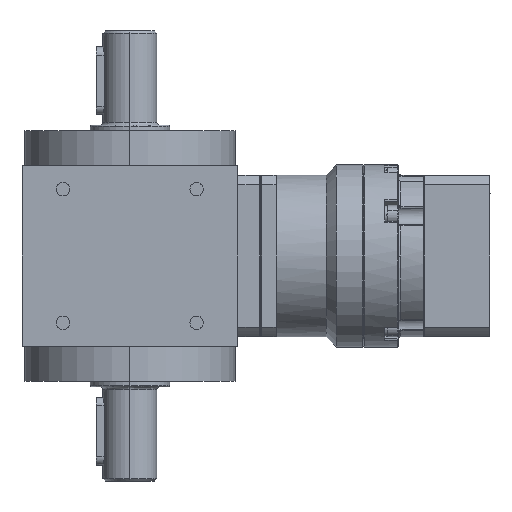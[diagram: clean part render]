
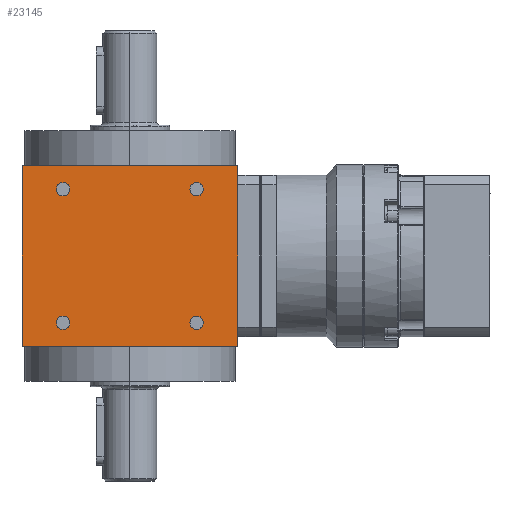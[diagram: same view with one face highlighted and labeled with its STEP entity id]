
A CAD part, left-side view. The second image highlights one B-rep face of the part: STEP entity #23145.
In plain terms, the highlighted planar face has unit normal (-1, 0, 0).
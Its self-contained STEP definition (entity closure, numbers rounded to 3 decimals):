
#205 = CARTESIAN_POINT ( 'NONE',  ( -40., 24.75, -24.75 ) ) ;
#367 = FACE_OUTER_BOUND ( 'NONE', #25468, .T. ) ;
#558 = EDGE_LOOP ( 'NONE', ( #16542, #19416 ) ) ;
#1187 = VERTEX_POINT ( 'NONE', #30153 ) ;
#1291 = VERTEX_POINT ( 'NONE', #18331 ) ;
#1546 = CIRCLE ( 'NONE', #16728, 2.5 ) ;
#1927 = CARTESIAN_POINT ( 'NONE',  ( -40., 40., -33.5 ) ) ;
#1976 = CARTESIAN_POINT ( 'NONE',  ( -40., 24.75, 24.75 ) ) ;
#2148 = LINE ( 'NONE', #12135, #2803 ) ;
#2803 = VECTOR ( 'NONE', #24925, 1000. ) ;
#2819 = EDGE_CURVE ( 'NONE', #27255, #6939, #24194, .T. ) ;
#2856 = CARTESIAN_POINT ( 'NONE',  ( -40., -24.75, -24.75 ) ) ;
#2866 = EDGE_LOOP ( 'NONE', ( #17215, #8880 ) ) ;
#3038 = DIRECTION ( 'NONE',  ( 0., -1., 0. ) ) ;
#4155 = DIRECTION ( 'NONE',  ( 1., 0., 0. ) ) ;
#4374 = DIRECTION ( 'NONE',  ( -1., 0., 0. ) ) ;
#5084 = AXIS2_PLACEMENT_3D ( 'NONE', #1976, #29535, #7047 ) ;
#5109 = CARTESIAN_POINT ( 'NONE',  ( -40., 27.25, 24.75 ) ) ;
#5197 = DIRECTION ( 'NONE',  ( 0., -1., 0. ) ) ;
#5292 = PLANE ( 'NONE',  #22098 ) ;
#5878 = VECTOR ( 'NONE', #3038, 1000. ) ;
#6628 = VERTEX_POINT ( 'NONE', #29481 ) ;
#6869 = DIRECTION ( 'NONE',  ( 1., 0., 0. ) ) ;
#6939 = VERTEX_POINT ( 'NONE', #19887 ) ;
#6959 = DIRECTION ( 'NONE',  ( 0., -1., 0. ) ) ;
#7047 = DIRECTION ( 'NONE',  ( 0., -1., 0. ) ) ;
#7555 = CARTESIAN_POINT ( 'NONE',  ( -40., -40., -33.5 ) ) ;
#7589 = EDGE_CURVE ( 'NONE', #6628, #27536, #21851, .T. ) ;
#7910 = FACE_BOUND ( 'NONE', #2866, .T. ) ;
#7928 = CARTESIAN_POINT ( 'NONE',  ( -40., -24.75, 24.75 ) ) ;
#8051 = CIRCLE ( 'NONE', #17018, 2.5 ) ;
#8609 = CARTESIAN_POINT ( 'NONE',  ( -40., 0., -33.5 ) ) ;
#8880 = ORIENTED_EDGE ( 'NONE', *, *, #2819, .T. ) ;
#9289 = FACE_BOUND ( 'NONE', #29434, .T. ) ;
#9505 = EDGE_CURVE ( 'NONE', #11599, #22132, #19317, .T. ) ;
#10169 = LINE ( 'NONE', #7555, #24474 ) ;
#10354 = ORIENTED_EDGE ( 'NONE', *, *, #17624, .F. ) ;
#10443 = EDGE_CURVE ( 'NONE', #19363, #1291, #26156, .T. ) ;
#10999 = ORIENTED_EDGE ( 'NONE', *, *, #24605, .F. ) ;
#11599 = VERTEX_POINT ( 'NONE', #29189 ) ;
#11919 = DIRECTION ( 'NONE',  ( 0., -1., 0. ) ) ;
#12135 = CARTESIAN_POINT ( 'NONE',  ( -40., 40., -33.5 ) ) ;
#12149 = AXIS2_PLACEMENT_3D ( 'NONE', #2856, #30742, #25826 ) ;
#12255 = VERTEX_POINT ( 'NONE', #25143 ) ;
#12427 = CIRCLE ( 'NONE', #5084, 2.5 ) ;
#12516 = CARTESIAN_POINT ( 'NONE',  ( -40., 0., 33.5 ) ) ;
#12909 = DIRECTION ( 'NONE',  ( 1., 0., 0. ) ) ;
#12960 = AXIS2_PLACEMENT_3D ( 'NONE', #19329, #6869, #24420 ) ;
#13010 = FACE_BOUND ( 'NONE', #558, .T. ) ;
#13013 = DIRECTION ( 'NONE',  ( 0., -1., 0. ) ) ;
#13601 = ORIENTED_EDGE ( 'NONE', *, *, #29542, .T. ) ;
#14445 = VERTEX_POINT ( 'NONE', #22517 ) ;
#14824 = EDGE_CURVE ( 'NONE', #18866, #1187, #10169, .T. ) ;
#15449 = CARTESIAN_POINT ( 'NONE',  ( -40., -24.75, -24.75 ) ) ;
#15631 = AXIS2_PLACEMENT_3D ( 'NONE', #23697, #4155, #24162 ) ;
#15664 = LINE ( 'NONE', #8609, #5878 ) ;
#15982 = CARTESIAN_POINT ( 'NONE',  ( -40., -22.25, -24.75 ) ) ;
#16196 = AXIS2_PLACEMENT_3D ( 'NONE', #17993, #12909, #5197 ) ;
#16464 = AXIS2_PLACEMENT_3D ( 'NONE', #7928, #17946, #27953 ) ;
#16542 = ORIENTED_EDGE ( 'NONE', *, *, #7589, .T. ) ;
#16728 = AXIS2_PLACEMENT_3D ( 'NONE', #205, #20705, #13013 ) ;
#16847 = FACE_BOUND ( 'NONE', #20069, .T. ) ;
#16979 = EDGE_CURVE ( 'NONE', #22132, #11599, #18557, .T. ) ;
#17018 = AXIS2_PLACEMENT_3D ( 'NONE', #15449, #22984, #25796 ) ;
#17027 = VECTOR ( 'NONE', #6959, 1000. ) ;
#17215 = ORIENTED_EDGE ( 'NONE', *, *, #17325, .T. ) ;
#17325 = EDGE_CURVE ( 'NONE', #6939, #27255, #8051, .T. ) ;
#17572 = DIRECTION ( 'NONE',  ( 0., 0., 1. ) ) ;
#17624 = EDGE_CURVE ( 'NONE', #12255, #14445, #2148, .T. ) ;
#17946 = DIRECTION ( 'NONE',  ( 1., 0., 0. ) ) ;
#17993 = CARTESIAN_POINT ( 'NONE',  ( -40., 24.75, -24.75 ) ) ;
#18310 = CARTESIAN_POINT ( 'NONE',  ( -40., 22.25, -24.75 ) ) ;
#18331 = CARTESIAN_POINT ( 'NONE',  ( -40., 27.25, -24.75 ) ) ;
#18557 = CIRCLE ( 'NONE', #16464, 2.5 ) ;
#18866 = VERTEX_POINT ( 'NONE', #20643 ) ;
#19317 = CIRCLE ( 'NONE', #15631, 2.5 ) ;
#19329 = CARTESIAN_POINT ( 'NONE',  ( -40., 24.75, 24.75 ) ) ;
#19363 = VERTEX_POINT ( 'NONE', #18310 ) ;
#19416 = ORIENTED_EDGE ( 'NONE', *, *, #26751, .T. ) ;
#19846 = ORIENTED_EDGE ( 'NONE', *, *, #21777, .T. ) ;
#19887 = CARTESIAN_POINT ( 'NONE',  ( -40., -27.25, -24.75 ) ) ;
#20069 = EDGE_LOOP ( 'NONE', ( #24127, #26102 ) ) ;
#20643 = CARTESIAN_POINT ( 'NONE',  ( -40., -40., -33.5 ) ) ;
#20705 = DIRECTION ( 'NONE',  ( 1., 0., 0. ) ) ;
#21777 = EDGE_CURVE ( 'NONE', #12255, #18866, #15664, .T. ) ;
#21851 = CIRCLE ( 'NONE', #12960, 2.5 ) ;
#22098 = AXIS2_PLACEMENT_3D ( 'NONE', #1927, #4374, #11919 ) ;
#22132 = VERTEX_POINT ( 'NONE', #26455 ) ;
#22367 = LINE ( 'NONE', #12516, #17027 ) ;
#22517 = CARTESIAN_POINT ( 'NONE',  ( -40., 40., 33.5 ) ) ;
#22984 = DIRECTION ( 'NONE',  ( 1., 0., 0. ) ) ;
#23145 = ADVANCED_FACE ( 'NONE', ( #367, #9289, #13010, #16847, #7910 ), #5292, .T. ) ;
#23697 = CARTESIAN_POINT ( 'NONE',  ( -40., -24.75, 24.75 ) ) ;
#24127 = ORIENTED_EDGE ( 'NONE', *, *, #16979, .T. ) ;
#24162 = DIRECTION ( 'NONE',  ( 0., -1., 0. ) ) ;
#24194 = CIRCLE ( 'NONE', #12149, 2.5 ) ;
#24420 = DIRECTION ( 'NONE',  ( 0., -1., 0. ) ) ;
#24474 = VECTOR ( 'NONE', #17572, 1000. ) ;
#24605 = EDGE_CURVE ( 'NONE', #14445, #1187, #22367, .T. ) ;
#24925 = DIRECTION ( 'NONE',  ( 0., 0., 1. ) ) ;
#25143 = CARTESIAN_POINT ( 'NONE',  ( -40., 40., -33.5 ) ) ;
#25468 = EDGE_LOOP ( 'NONE', ( #10354, #19846, #26710, #10999 ) ) ;
#25796 = DIRECTION ( 'NONE',  ( 0., -1., 0. ) ) ;
#25826 = DIRECTION ( 'NONE',  ( 0., -1., 0. ) ) ;
#26102 = ORIENTED_EDGE ( 'NONE', *, *, #9505, .T. ) ;
#26156 = CIRCLE ( 'NONE', #16196, 2.5 ) ;
#26455 = CARTESIAN_POINT ( 'NONE',  ( -40., -27.25, 24.75 ) ) ;
#26710 = ORIENTED_EDGE ( 'NONE', *, *, #14824, .T. ) ;
#26751 = EDGE_CURVE ( 'NONE', #27536, #6628, #12427, .T. ) ;
#27255 = VERTEX_POINT ( 'NONE', #15982 ) ;
#27536 = VERTEX_POINT ( 'NONE', #5109 ) ;
#27953 = DIRECTION ( 'NONE',  ( 0., -1., 0. ) ) ;
#29189 = CARTESIAN_POINT ( 'NONE',  ( -40., -22.25, 24.75 ) ) ;
#29434 = EDGE_LOOP ( 'NONE', ( #31221, #13601 ) ) ;
#29481 = CARTESIAN_POINT ( 'NONE',  ( -40., 22.25, 24.75 ) ) ;
#29535 = DIRECTION ( 'NONE',  ( 1., 0., 0. ) ) ;
#29542 = EDGE_CURVE ( 'NONE', #1291, #19363, #1546, .T. ) ;
#30153 = CARTESIAN_POINT ( 'NONE',  ( -40., -40., 33.5 ) ) ;
#30742 = DIRECTION ( 'NONE',  ( 1., 0., 0. ) ) ;
#31221 = ORIENTED_EDGE ( 'NONE', *, *, #10443, .T. ) ;
